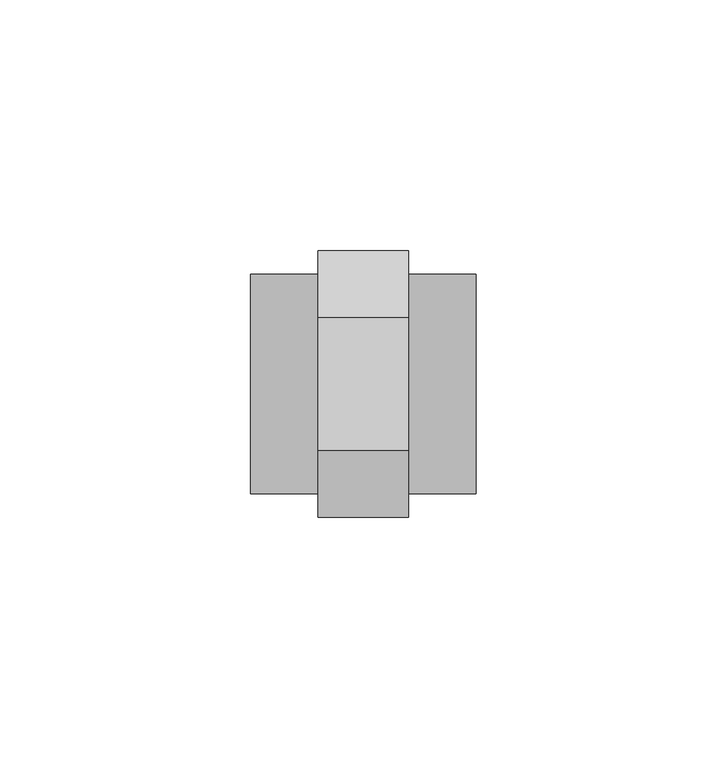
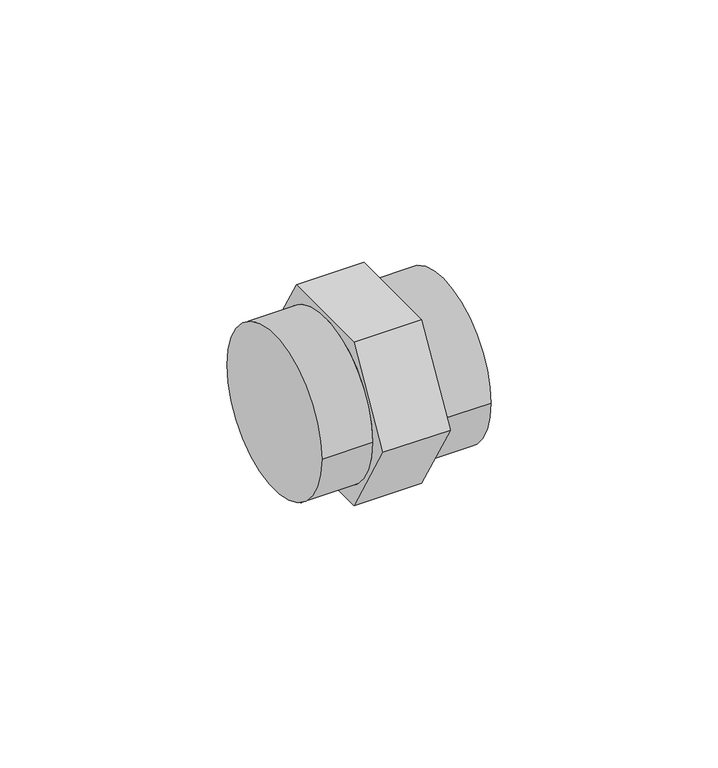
"""IFC4 building model written with IfcOpenShell, lengths in millimetres: pipe fitting geometry, 01101007 : Uniao F/F."""

from ifc_helpers import new_model, si_unit, frame, origin, place, context, project, spatial, circle_curve, source, transform, mapped, element, save
from ifc_brep_helpers import plane_surface, cylinder_surface, advanced_brep


def pipe_fitting_2fb416b5(model_context):
    return source(origin(), model_context, "Body", "AdvancedBrep", [
        advanced_brep(
        [(9.0, -13.2790562, 23.0), (9.0, -26.5581124, 0.0), (9.0, -13.2790562, -23.0), (9.0, 13.2790562, -23.0), (9.0, 26.5581124, 0.0), (9.0, 13.2790562, 23.0), (9.0, -21.85, 0.0), (9.0, 21.85, 0.0), (-9.0, -13.2790562, 23.0), (-9.0, 13.2790562, 23.0), (-9.0, 26.5581124, 0.0), (-9.0, 13.2790562, -23.0), (-9.0, -13.2790562, -23.0), (-9.0, -26.5581124, 0.0), (-9.0, 21.85, 0.0), (-9.0, -21.85, 0.0), (-22.5, -21.85, 0.0), (-22.5, 21.85, 0.0), (22.5, -21.85, 0.0), (22.5, 21.85, 0.0)],
        [
            (0, 1),
            (1, 2),
            (2, 3),
            (3, 4),
            (4, 5),
            (5, 0),
            (6, 7, circle_curve(frame((9.0, 0.0, 0.0), z_axis=(-1.0, 0.0, 0.0), x_axis=(0.0, 1.0, 0.0)), 21.85)),
            (7, 6, circle_curve(frame((9.0, 0.0, 0.0), z_axis=(-1.0, 0.0, 0.0), x_axis=(0.0, 1.0, 0.0)), 21.85)),
            (8, 9),
            (9, 10),
            (10, 11),
            (11, 12),
            (12, 13),
            (13, 8),
            (14, 15, circle_curve(frame((-9.0, 0.0, 0.0), z_axis=(1.0, 0.0, 0.0), x_axis=(0.0, 1.0, 0.0)), 21.85)),
            (15, 14, circle_curve(frame((-9.0, 0.0, 0.0), z_axis=(1.0, 0.0, 0.0), x_axis=(0.0, 1.0, 0.0)), 21.85)),
            (0, 8),
            (13, 1),
            (12, 2),
            (11, 3),
            (10, 4),
            (9, 5),
            (16, 17, circle_curve(frame((-22.5, 0.0, 0.0), z_axis=(-1.0, 0.0, 0.0), x_axis=(0.0, 1.0, 0.0)), 21.85)),
            (17, 16, circle_curve(frame((-22.5, 0.0, 0.0), z_axis=(-1.0, 0.0, 0.0), x_axis=(0.0, 1.0, 0.0)), 21.85)),
            (18, 19, circle_curve(frame((22.5, 0.0, 0.0), z_axis=(1.0, 0.0, 0.0), x_axis=(0.0, 1.0, 0.0)), 21.85)),
            (19, 18, circle_curve(frame((22.5, 0.0, 0.0), z_axis=(1.0, 0.0, 0.0), x_axis=(0.0, 1.0, 0.0)), 21.85)),
            (16, 15),
            (14, 17),
            (19, 7),
            (6, 18),
        ],
        [
            plane_surface(frame((9.0, -13.2790562, 23.0), z_axis=(1.0, 0.0, 0.0), x_axis=(0.0, -0.5000000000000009, -0.8660254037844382))),
            plane_surface(frame((-9.0, -13.2790562, 23.0), z_axis=(-1.0, 0.0, 0.0), x_axis=(0.0, 0.5000000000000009, 0.8660254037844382))),
            plane_surface(frame((9.0, -13.2790562, 23.0), z_axis=(0.0, -0.8660254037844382, 0.5000000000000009), x_axis=(-1.0, 0.0, 0.0))),
            plane_surface(frame((9.0, -26.5581124, 0.0), z_axis=(0.0, -0.8660254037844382, -0.500000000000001), x_axis=(-1.0, 0.0, 0.0))),
            plane_surface(frame((9.0, -13.2790562, -23.0), z_axis=(0.0, 0.0, -1.0), x_axis=(-1.0, 0.0, 0.0))),
            plane_surface(frame((9.0, 13.2790562, -23.0), z_axis=(0.0, 0.8660254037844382, -0.5000000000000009), x_axis=(-1.0, 0.0, 0.0))),
            plane_surface(frame((9.0, 26.5581124, 0.0), z_axis=(0.0, 0.866025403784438, 0.500000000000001), x_axis=(-1.0, 0.0, 0.0))),
            plane_surface(frame((9.0, 13.2790562, 23.0), z_axis=(0.0, 0.0, 1.0), x_axis=(-1.0, 0.0, 0.0))),
            plane_surface(frame((-22.5, 0.0, 0.0), z_axis=(-1.0, 0.0, 0.0), x_axis=(0.0, 0.0, 1.0))),
            plane_surface(frame((22.5, 0.0, 0.0), z_axis=(1.0, 0.0, 0.0), x_axis=(0.0, 0.0, 1.0))),
            cylinder_surface(frame((-22.5, 0.0, 0.0), z_axis=(-1.0, 0.0, 0.0), x_axis=(0.0, 1.0, 0.0)), 21.85),
        ],
        [
            (0, [[1, 2, 3, 4, 5, 6], [7, 8]]),
            (1, [[9, 10, 11, 12, 13, 14], [15, 16]]),
            (2, [[-1, 17, -14, 18]]),
            (3, [[-2, -18, -13, 19]]),
            (4, [[-3, -19, -12, 20]]),
            (5, [[-4, -20, -11, 21]]),
            (6, [[-5, -21, -10, 22]]),
            (7, [[-6, -22, -9, -17]]),
            (8, [[23, 24]]),
            (9, [[25, 26]]),
            (10, [[-23, 27, -15, 28]]),
            (10, [[-26, 29, -7, 30]]),
            (10, [[-24, -28, -16, -27]]),
            (10, [[-25, -30, -8, -29]]),
        ],
    ),
    ])


if __name__ == "__main__":
    model = new_model("IFC4")
    model_context = context("Model", 3, world=origin())
    ifc_project = project(units=[si_unit("LENGTHUNIT", "METRE", prefix="MILLI")], contexts=[model_context])
    site = spatial("IfcSite", under=ifc_project)
    building = spatial("IfcBuilding", under=site)
    placement = place(None, origin())
    pipe_fitting_shape = pipe_fitting_2fb416b5(model_context)
    element("IfcPipeFitting", 1, ObjectType="01101007 : Uniao F/F", at=placement, inside=building, context=model_context, shape_type="MappedRepresentation", body=[
        mapped(pipe_fitting_shape, transform((0.0, 0.0, 0.0), x_axis=(1.0, 0.0, 0.0), y_axis=(0.0, 1.0, 0.0), z_axis=(0.0, 0.0, 1.0))),
    ])
    save(model, "model.ifc")
